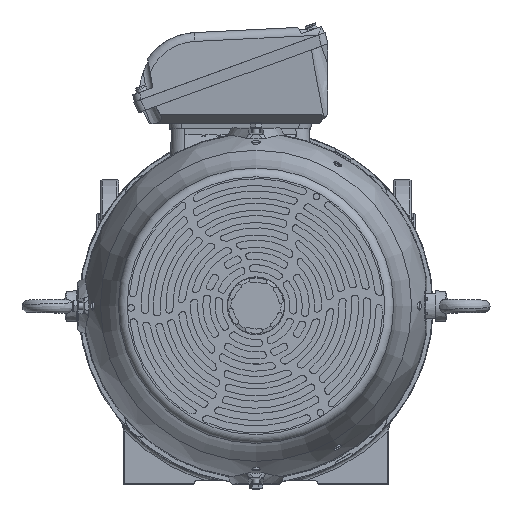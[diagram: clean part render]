
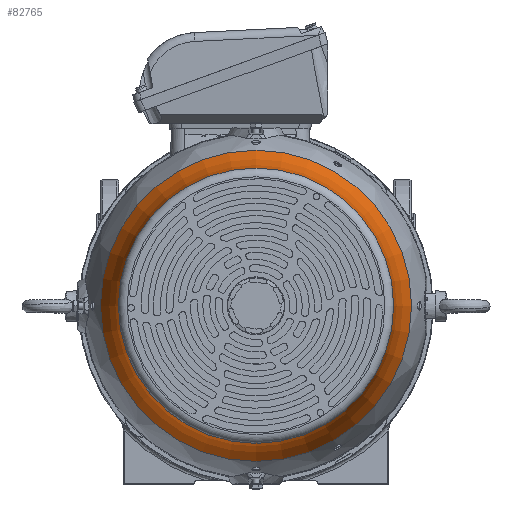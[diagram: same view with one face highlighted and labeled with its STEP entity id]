
A CAD part, top view. The second image highlights one B-rep face of the part: STEP entity #82765.
In plain terms, the highlighted toroidal (fillet/blend) face has major radius 333.581 mm and minor radius 178.663 mm.
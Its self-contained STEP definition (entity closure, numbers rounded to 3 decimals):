
#9621=TOROIDAL_SURFACE('',#89230,333.581,178.663);
#14933=FACE_OUTER_BOUND('',#19785,.T.);
#19785=EDGE_LOOP('',(#70593,#70594,#70595,#70596,#70597,#70598));
#32786=CIRCLE('',#89231,155.304);
#32787=CIRCLE('',#89232,155.304);
#32788=CIRCLE('',#89233,178.663);
#32789=CIRCLE('',#89234,175.502);
#32790=CIRCLE('',#89235,175.502);
#39609=VERTEX_POINT('',#191362);
#39610=VERTEX_POINT('',#191363);
#39611=VERTEX_POINT('',#191366);
#39612=VERTEX_POINT('',#191368);
#50427=EDGE_CURVE('',#39609,#39610,#32786,.T.);
#50428=EDGE_CURVE('',#39610,#39609,#32787,.T.);
#50429=EDGE_CURVE('',#39610,#39611,#32788,.T.);
#50430=EDGE_CURVE('',#39611,#39612,#32789,.T.);
#50431=EDGE_CURVE('',#39612,#39611,#32790,.T.);
#70593=ORIENTED_EDGE('',*,*,#50427,.F.);
#70594=ORIENTED_EDGE('',*,*,#50428,.F.);
#70595=ORIENTED_EDGE('',*,*,#50429,.T.);
#70596=ORIENTED_EDGE('',*,*,#50430,.T.);
#70597=ORIENTED_EDGE('',*,*,#50431,.T.);
#70598=ORIENTED_EDGE('',*,*,#50429,.F.);
#82765=ADVANCED_FACE('',(#14933),#9621,.F.);
#89230=AXIS2_PLACEMENT_3D('',#191361,#105178,#105179);
#89231=AXIS2_PLACEMENT_3D('',#191364,#105180,#105181);
#89232=AXIS2_PLACEMENT_3D('',#191365,#105182,#105183);
#89233=AXIS2_PLACEMENT_3D('',#191367,#105184,#105185);
#89234=AXIS2_PLACEMENT_3D('',#191369,#105186,#105187);
#89235=AXIS2_PLACEMENT_3D('',#191370,#105188,#105189);
#105178=DIRECTION('center_axis',(0.,0.,
1.));
#105179=DIRECTION('ref_axis',(0.,1.,0.));
#105180=DIRECTION('center_axis',(0.,0.,
1.));
#105181=DIRECTION('ref_axis',(0.,1.,0.));
#105182=DIRECTION('center_axis',(0.,0.,
1.));
#105183=DIRECTION('ref_axis',(0.,1.,0.));
#105184=DIRECTION('center_axis',(-1.,0.,0.));
#105185=DIRECTION('ref_axis',(0.,-1.,0.));
#105186=DIRECTION('center_axis',(0.,0.,
1.));
#105187=DIRECTION('ref_axis',(0.,1.,0.));
#105188=DIRECTION('center_axis',(0.,0.,
1.));
#105189=DIRECTION('ref_axis',(0.,1.,0.));
#191361=CARTESIAN_POINT('Origin',(0.,0.,
778.528));
#191362=CARTESIAN_POINT('',(0.,155.304,766.784));
#191363=CARTESIAN_POINT('',(0.,-155.304,766.784));
#191364=CARTESIAN_POINT('Origin',(0.,0.,
766.784));
#191365=CARTESIAN_POINT('Origin',(0.,0.,
766.784));
#191366=CARTESIAN_POINT('',(0.,-175.502,695.273));
#191367=CARTESIAN_POINT('Origin',(0.,-333.581,
778.528));
#191368=CARTESIAN_POINT('',(0.,175.502,695.273));
#191369=CARTESIAN_POINT('Origin',(0.,0.,
695.273));
#191370=CARTESIAN_POINT('Origin',(0.,0.,
695.273));
